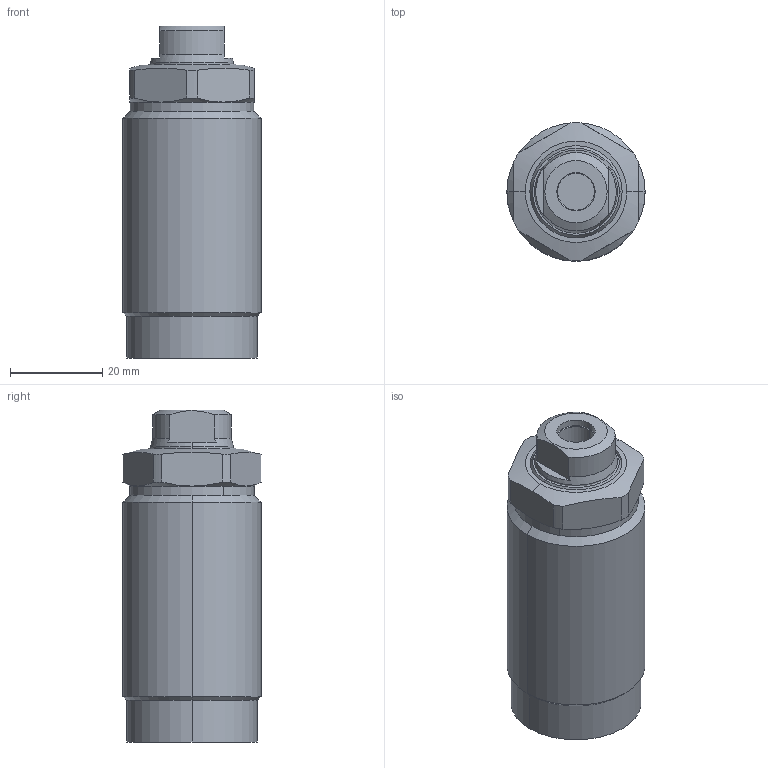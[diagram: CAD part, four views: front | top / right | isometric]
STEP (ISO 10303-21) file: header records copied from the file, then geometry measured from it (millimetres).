
FILE_DESCRIPTION((' '),'2;1');
FILE_NAME( 'TGP30-AL.x_t.stp', '2025-02-10T16:03:53', (' '), ('--- Datakit www.datakit.com---'), ' Datakit CrossCadWare V2024.1 Dec 21 2023', 'Mastercam 2025', ' ');
FILE_SCHEMA(('AUTOMOTIVE_DESIGN { 1 0 10303 214 1 1 1 1 }'));
Length unit declared in the file: millimetre
Products named in the file (1): TGP30-AL
Bounding box: 30 x 30 x 72 mm (x, y, z)
Volume: 48824.8 mm3; surface area: 9920.2 mm2
Topology: 2 solids, 2 shells, 82 faces, 197 edges, 126 vertices
Faces by surface type: cylinder 34, cone 22, plane 22, torus 4
Entity records: 2546 total; most frequent: CARTESIAN_POINT 580, DIRECTION 434, ORIENTED_EDGE 390, EDGE_CURVE 195, AXIS2_PLACEMENT_3D 184, VERTEX_POINT 126, CIRCLE 101, EDGE_LOOP 91
